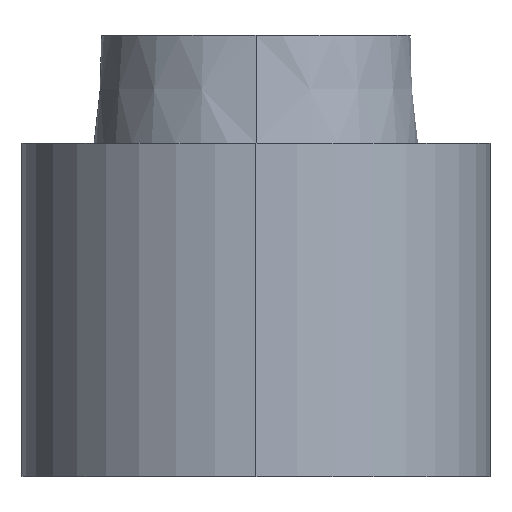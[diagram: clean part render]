
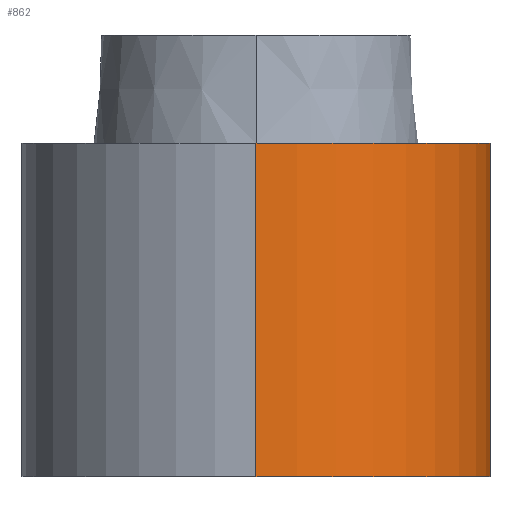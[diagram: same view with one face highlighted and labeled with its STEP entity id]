
A CAD part, left-side view. The second image highlights one B-rep face of the part: STEP entity #862.
In plain terms, the highlighted cylindrical face has radius 26 mm (diameter 52 mm), a partial arc.
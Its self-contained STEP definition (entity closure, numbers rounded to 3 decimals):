
#107 = CARTESIAN_POINT ( 'NONE',  ( -26., 0., 37. ) ) ;
#108 = AXIS2_PLACEMENT_3D ( 'NONE', #127, #126, #125 ) ;
#125 = DIRECTION ( 'NONE',  ( 1., 0., 0. ) ) ;
#126 = DIRECTION ( 'NONE',  ( 0., 0., 1. ) ) ;
#127 = CARTESIAN_POINT ( 'NONE',  ( 0., 0., 37. ) ) ;
#132 = DIRECTION ( 'NONE',  ( 0., 0., -1. ) ) ;
#133 = VECTOR ( 'NONE', #132, 1000. ) ;
#134 = CARTESIAN_POINT ( 'NONE',  ( -26., 0., 37. ) ) ;
#135 = LINE ( 'NONE', #134, #133 ) ;
#140 = CIRCLE ( 'NONE', #108, 26. ) ;
#144 = CARTESIAN_POINT ( 'NONE',  ( -26., 0., 0. ) ) ;
#385 = CARTESIAN_POINT ( 'NONE',  ( 0., 0., 37. ) ) ;
#398 = CYLINDRICAL_SURFACE ( 'NONE', #427, 26. ) ;
#406 = DIRECTION ( 'NONE',  ( 0., 0., -1. ) ) ;
#421 = FACE_OUTER_BOUND ( 'NONE', #865, .T. ) ;
#427 = AXIS2_PLACEMENT_3D ( 'NONE', #385, #406, #434 ) ;
#434 = DIRECTION ( 'NONE',  ( -1., 0., 0. ) ) ;
#600 = EDGE_CURVE ( 'NONE', #604, #601, #135, .T. ) ;
#601 = VERTEX_POINT ( 'NONE', #144 ) ;
#602 = EDGE_CURVE ( 'NONE', #604, #663, #140, .T. ) ;
#603 = ORIENTED_EDGE ( 'NONE', *, *, #602, .F. ) ;
#604 = VERTEX_POINT ( 'NONE', #107 ) ;
#658 = ORIENTED_EDGE ( 'NONE', *, *, #662, .T. ) ;
#659 = EDGE_CURVE ( 'NONE', #663, #698, #987, .T. ) ;
#662 = EDGE_CURVE ( 'NONE', #601, #698, #988, .T. ) ;
#663 = VERTEX_POINT ( 'NONE', #1007 ) ;
#665 = ORIENTED_EDGE ( 'NONE', *, *, #600, .T. ) ;
#698 = VERTEX_POINT ( 'NONE', #958 ) ;
#717 = ORIENTED_EDGE ( 'NONE', *, *, #659, .F. ) ;
#862 = ADVANCED_FACE ( 'NONE', ( #421 ), #398, .T. ) ;
#865 = EDGE_LOOP ( 'NONE', ( #603, #665, #658, #717 ) ) ;
#958 = CARTESIAN_POINT ( 'NONE',  ( 0., -26., 0. ) ) ;
#982 = VECTOR ( 'NONE', #985, 1000. ) ;
#983 = CARTESIAN_POINT ( 'NONE',  ( 0., -26., 37. ) ) ;
#985 = DIRECTION ( 'NONE',  ( 0., 0., -1. ) ) ;
#987 = LINE ( 'NONE', #983, #982 ) ;
#988 = CIRCLE ( 'NONE', #998, 26. ) ;
#998 = AXIS2_PLACEMENT_3D ( 'NONE', #1015, #1014, #1013 ) ;
#1007 = CARTESIAN_POINT ( 'NONE',  ( 0., -26., 37. ) ) ;
#1013 = DIRECTION ( 'NONE',  ( 1., 0., 0. ) ) ;
#1014 = DIRECTION ( 'NONE',  ( 0., 0., 1. ) ) ;
#1015 = CARTESIAN_POINT ( 'NONE',  ( 0., 0., 0. ) ) ;
